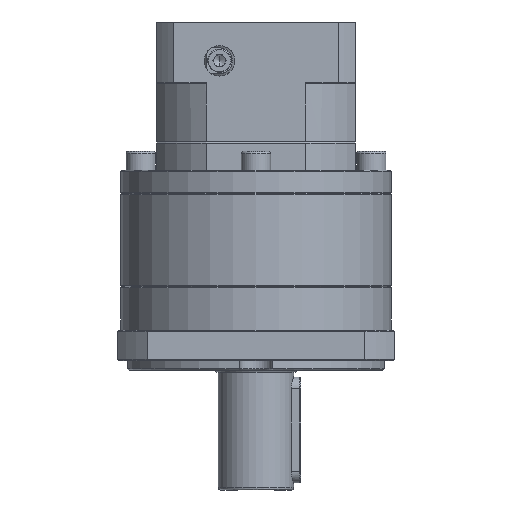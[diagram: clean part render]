
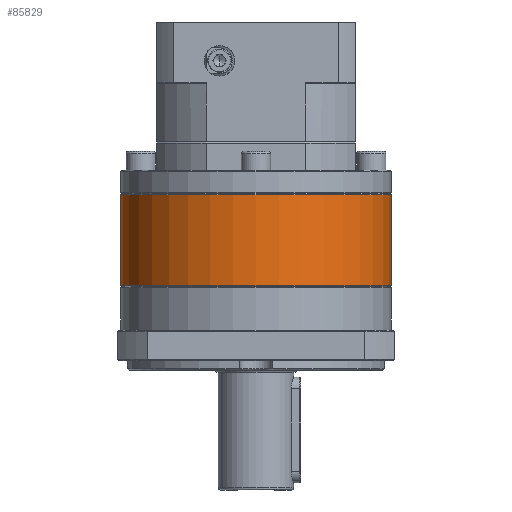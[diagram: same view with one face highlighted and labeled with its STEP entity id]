
A CAD part, front view. The second image highlights one B-rep face of the part: STEP entity #85829.
In plain terms, the highlighted cylindrical face has radius 57.5 mm (diameter 115 mm), a partial arc.
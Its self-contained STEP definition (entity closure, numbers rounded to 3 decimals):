
#1090 = AXIS2_PLACEMENT_3D ( 'NONE', #101239, #112212, #10386 ) ;
#3022 = AXIS2_PLACEMENT_3D ( 'NONE', #117164, #56945, #118046 ) ;
#8723 = CARTESIAN_POINT ( 'NONE',  ( 66.781, 86.526, -57.561 ) ) ;
#10386 = DIRECTION ( 'NONE',  ( -1., 0., 0. ) ) ;
#15427 = VERTEX_POINT ( 'NONE', #102156 ) ;
#15813 = FACE_OUTER_BOUND ( 'NONE', #125026, .T. ) ;
#17527 = VECTOR ( 'NONE', #32604, 1000. ) ;
#18200 = VECTOR ( 'NONE', #71748, 1000. ) ;
#23430 = CIRCLE ( 'NONE', #1090, 57.5 ) ;
#23832 = LINE ( 'NONE', #72558, #17527 ) ;
#24900 = EDGE_CURVE ( 'NONE', #15427, #55197, #81068, .T. ) ;
#32604 = DIRECTION ( 'NONE',  ( 0., 0., -1. ) ) ;
#49191 = ORIENTED_EDGE ( 'NONE', *, *, #24900, .T. ) ;
#55197 = VERTEX_POINT ( 'NONE', #125975 ) ;
#56945 = DIRECTION ( 'NONE',  ( 0., 0., 1. ) ) ;
#71748 = DIRECTION ( 'NONE',  ( 0., 0., -1. ) ) ;
#72558 = CARTESIAN_POINT ( 'NONE',  ( 9.281, 86.526, -57.561 ) ) ;
#72608 = CARTESIAN_POINT ( 'NONE',  ( 124.281, 86.526, -57.561 ) ) ;
#77044 = EDGE_CURVE ( 'NONE', #125448, #55197, #104712, .T. ) ;
#81068 = CIRCLE ( 'NONE', #3022, 57.5 ) ;
#85829 = ADVANCED_FACE ( 'NONE', ( #15813 ), #108527, .T. ) ;
#88171 = DIRECTION ( 'NONE',  ( 0., 0., -1. ) ) ;
#88819 = CARTESIAN_POINT ( 'NONE',  ( 124.281, 86.526, -58.061 ) ) ;
#91560 = CARTESIAN_POINT ( 'NONE',  ( 9.281, 86.526, -58.061 ) ) ;
#97983 = ORIENTED_EDGE ( 'NONE', *, *, #107861, .T. ) ;
#98287 = EDGE_CURVE ( 'NONE', #125448, #108883, #23430, .T. ) ;
#101239 = CARTESIAN_POINT ( 'NONE',  ( 66.781, 86.526, -58.061 ) ) ;
#102156 = CARTESIAN_POINT ( 'NONE',  ( 9.281, 86.526, -96.773 ) ) ;
#102657 = ORIENTED_EDGE ( 'NONE', *, *, #77044, .F. ) ;
#104712 = LINE ( 'NONE', #72608, #18200 ) ;
#107551 = DIRECTION ( 'NONE',  ( -1., 0., 0. ) ) ;
#107861 = EDGE_CURVE ( 'NONE', #108883, #15427, #23832, .T. ) ;
#108527 = CYLINDRICAL_SURFACE ( 'NONE', #117644, 57.5 ) ;
#108883 = VERTEX_POINT ( 'NONE', #91560 ) ;
#110580 = ORIENTED_EDGE ( 'NONE', *, *, #98287, .T. ) ;
#112212 = DIRECTION ( 'NONE',  ( 0., 0., -1. ) ) ;
#117164 = CARTESIAN_POINT ( 'NONE',  ( 66.781, 86.526, -96.773 ) ) ;
#117644 = AXIS2_PLACEMENT_3D ( 'NONE', #8723, #88171, #107551 ) ;
#118046 = DIRECTION ( 'NONE',  ( -1., 0., 0. ) ) ;
#125026 = EDGE_LOOP ( 'NONE', ( #102657, #110580, #97983, #49191 ) ) ;
#125448 = VERTEX_POINT ( 'NONE', #88819 ) ;
#125975 = CARTESIAN_POINT ( 'NONE',  ( 124.281, 86.526, -96.773 ) ) ;
